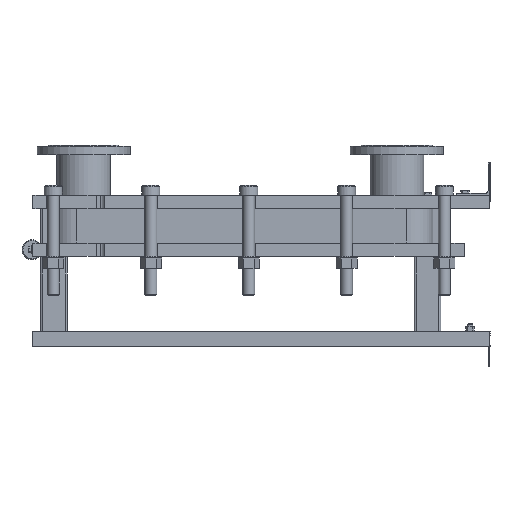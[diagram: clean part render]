
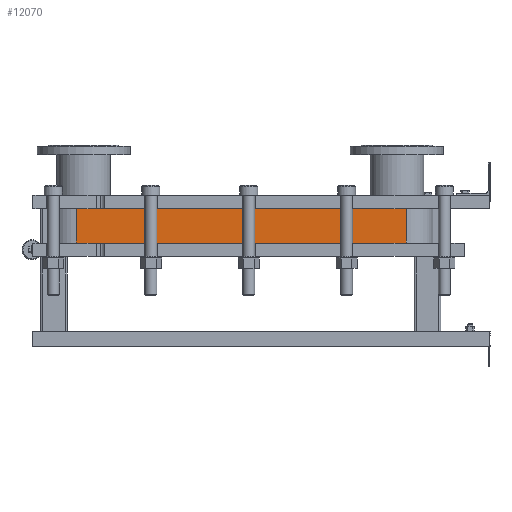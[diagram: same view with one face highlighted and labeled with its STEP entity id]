
A CAD part, left-side view. The second image highlights one B-rep face of the part: STEP entity #12070.
In plain terms, the highlighted planar face has unit normal (-1, 0, 0).
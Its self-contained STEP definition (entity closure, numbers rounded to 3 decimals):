
#1064=LINE('',#21140,#2164);
#1065=LINE('',#21144,#2165);
#1066=LINE('',#21146,#2166);
#1067=LINE('',#21147,#2167);
#2164=VECTOR('',#15790,10.);
#2165=VECTOR('',#15795,10.);
#2166=VECTOR('',#15796,10.);
#2167=VECTOR('',#15797,10.);
#3304=FACE_OUTER_BOUND('',#4091,.T.);
#4091=EDGE_LOOP('',(#9793,#9794,#9795,#9796));
#5677=VERTEX_POINT('',#21137);
#5678=VERTEX_POINT('',#21139);
#5679=VERTEX_POINT('',#21143);
#5680=VERTEX_POINT('',#21145);
#7118=EDGE_CURVE('',#5678,#5677,#1064,.T.);
#7120=EDGE_CURVE('',#5677,#5679,#1065,.T.);
#7121=EDGE_CURVE('',#5680,#5679,#1066,.T.);
#7122=EDGE_CURVE('',#5680,#5678,#1067,.T.);
#9793=ORIENTED_EDGE('',*,*,#7120,.T.);
#9794=ORIENTED_EDGE('',*,*,#7121,.F.);
#9795=ORIENTED_EDGE('',*,*,#7122,.T.);
#9796=ORIENTED_EDGE('',*,*,#7118,.T.);
#11441=PLANE('',#13191);
#12070=ADVANCED_FACE('',(#3304),#11441,.T.);
#13191=AXIS2_PLACEMENT_3D('',#21142,#15793,#15794);
#15790=DIRECTION('',(0.,0.,-1.));
#15793=DIRECTION('center_axis',(-1.,0.,0.));
#15794=DIRECTION('ref_axis',(0.,1.,0.));
#15795=DIRECTION('',(0.,-1.,0.));
#15796=DIRECTION('',(0.,0.,-1.));
#15797=DIRECTION('',(0.,1.,0.));
#21137=CARTESIAN_POINT('',(-248.152,1243.818,-103.5));
#21139=CARTESIAN_POINT('',(-248.152,1243.818,0.));
#21140=CARTESIAN_POINT('',(-248.152,1243.818,0.));
#21142=CARTESIAN_POINT('Origin',(-248.152,251.818,0.));
#21143=CARTESIAN_POINT('',(-248.152,251.818,-103.5));
#21144=CARTESIAN_POINT('',(-248.152,499.818,-103.5));
#21145=CARTESIAN_POINT('',(-248.152,251.818,0.));
#21146=CARTESIAN_POINT('',(-248.152,251.818,0.));
#21147=CARTESIAN_POINT('',(-248.152,251.818,0.));
